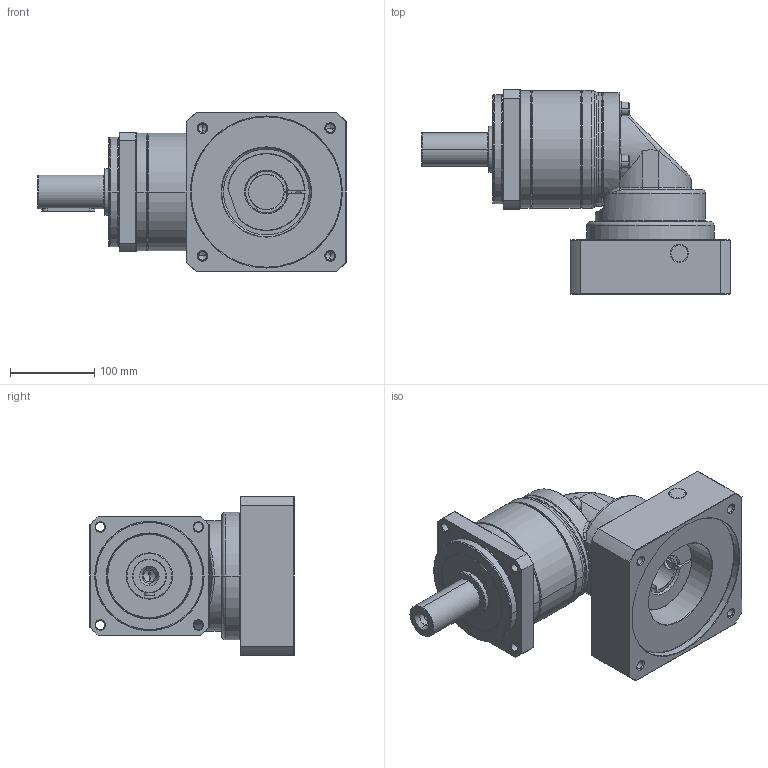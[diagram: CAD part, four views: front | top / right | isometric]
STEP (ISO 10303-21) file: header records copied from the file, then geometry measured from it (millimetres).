
FILE_DESCRIPTION((''),'2;1');
FILE_NAME('PA2R-142_1ST_42-P0411A00101_ASM','2016-05-13T',('d01943'),(''),'PRO/ENGINEER BY PARAMETRIC TECHNOLOGY CORPORATION, 2008410','PRO/ENGINEER BY PARAMETRIC TECHNOLOGY CORPORATION, 2008410','');
FILE_SCHEMA(('CONFIG_CONTROL_DESIGN'));
Length unit declared in the file: millimetre
Products named in the file (12): P1327510001; P0250500001; P0350500601; P1349500001; P1017500001; P0713506001; P0503A00012; P1350500601; P0411A00101; P1702700001; 2111BA10040; PA2R-142_1ST_42-P0411A00101_ASM
Assembly tree (14 placements, depth 2):
  PA2R-142_1ST_42-P0411A00101_ASM
    P1327510001
    P0250500001
    P0350500601
    P1349500001
    P1017500001
    P0713506001
    P0503A00012
    P1350500601
    P0411A00101
    P1702700001
    2111BA10040  x4
Bounding box: 367 x 243.5 x 190 mm (x, y, z)
Volume: 4225675.1 mm3; surface area: 578154.3 mm2
Topology: 14 solids, 14 shells, 720 faces, 1589 edges, 921 vertices
Faces by surface type: cylinder 212, cone 208, plane 168, torus 100, bspline 32
Entity records: 23174 total; most frequent: CARTESIAN_POINT 9246, DIRECTION 3067, ORIENTED_EDGE 2706, EDGE_CURVE 1353, AXIS2_PLACEMENT_3D 1291, VERTEX_POINT 801, EDGE_LOOP 702, CIRCLE 676
